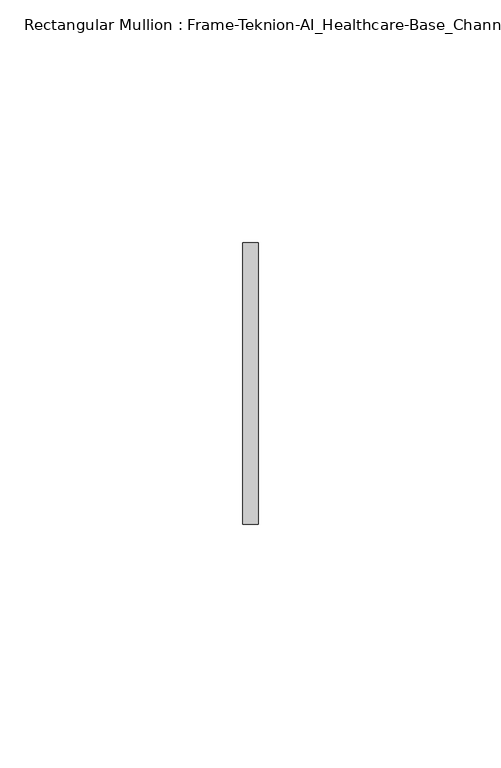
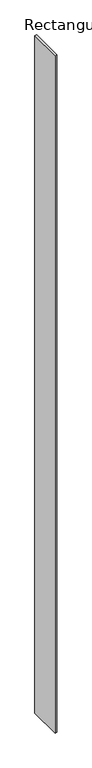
"""IFC4 building model written with IfcOpenShell, lengths in millimetres: member geometry, Rectangular Mullion : Frame-Teknion-AI_Healthcare-Base_Channel."""

import ifcopenshell
import ifcopenshell.guid

model = None  # the IFC model being written
_history = None  # IfcOwnerHistory: only IFC2X3 demands one
_inside = {}  # id of a spatial element -> (the spatial element, [elements in it])
_under = {}  # id of a project, library or spatial element -> (it, [spatial elements below it])
_declared = {}  # id of a project -> (the project, [libraries it declares])
_typed = {}  # id of a type object -> (the type object, [elements of that type])
_made_of = {}  # id of a material, layer set ... -> (it, [elements and type objects made of it])


def new_model(schema):
    """Start an empty IFC model of exactly this schema.

    Asked for "IFC4X3", IfcOpenShell would pick the latest addendum, in which some entities
    have other attributes; the version numbers below select the first issue.
    IFC2X3 requires an IfcOwnerHistory on every rooted entity: one is made here for all.
    """
    global model, _history
    if schema == "IFC4X3":
        model = ifcopenshell.file(schema_version=(4, 3, 0, 0))
    else:
        model = ifcopenshell.file(schema=schema)
    _inside.clear()
    _under.clear()
    _declared.clear()
    _typed.clear()
    _made_of.clear()
    _history = None
    if model.schema == "IFC2X3":
        org = make("IfcOrganization", Name="unknown")
        user = make(
            "IfcPersonAndOrganization",
            ThePerson=make("IfcPerson", FamilyName="unknown"),
            TheOrganization=org,
        )
        app = make(
            "IfcApplication",
            ApplicationDeveloper=org,
            Version="unknown",
            ApplicationFullName="unknown",
            ApplicationIdentifier="unknown",
        )
        _history = make(
            "IfcOwnerHistory",
            OwningUser=user,
            OwningApplication=app,
            ChangeAction="ADDED",
            CreationDate=0,
        )
    return model


def make(cls, **values):
    """One entity of the class cls with the attributes given. An attribute that is None is left unset."""
    return model.create_entity(
        cls, **{name: value for name, value in values.items() if value is not None}
    )


def rooted(cls, **values):
    """An entity with a GlobalId (a new one), such as an element, a storey or a relation."""
    return make(cls, GlobalId=ifcopenshell.guid.new(), OwnerHistory=_history, **values)


def si_unit(unit_type, name, prefix=None):
    """IfcSIUnit, for example si_unit("LENGTHUNIT", "METRE", prefix="MILLI")."""
    return make("IfcSIUnit", UnitType=unit_type, Prefix=prefix, Name=name)


def assignment(units):
    """IfcUnitAssignment: the units of a project."""
    return None if units is None else make("IfcUnitAssignment", Units=units)


def point(xyz):
    """IfcCartesianPoint."""
    return None if xyz is None else make("IfcCartesianPoint", Coordinates=xyz)


def direction(xyz):
    """IfcDirection."""
    return None if xyz is None else make("IfcDirection", DirectionRatios=xyz)


def frame(location, z_axis=None, x_axis=None):
    """IfcAxis2Placement3D, a coordinate frame: its origin and axes. An axis left out is left unset."""
    return make(
        "IfcAxis2Placement3D",
        Location=point(location),
        Axis=direction(z_axis),
        RefDirection=direction(x_axis),
    )


def origin():
    """The frame at (0, 0, 0) with its axes left unset."""
    return frame((0.0, 0.0, 0.0))


def place(relative_to, where):
    """IfcLocalPlacement: puts the frame where relative to a parent placement (None: the world)."""
    return make(
        "IfcLocalPlacement", PlacementRelTo=relative_to, RelativePlacement=where
    )


def context(
    kind, dimensions, precision=None, world=None, true_north=None, identifier=None
):
    """IfcGeometricRepresentationContext, for example the 3D "Model" context."""
    return make(
        "IfcGeometricRepresentationContext",
        ContextIdentifier=identifier,
        ContextType=kind,
        CoordinateSpaceDimension=dimensions,
        Precision=precision,
        WorldCoordinateSystem=world,
        TrueNorth=true_north,
    )


def project(units=None, contexts=None):
    """IfcProject with its units and contexts."""
    return rooted(
        "IfcProject",
        Name="project",
        RepresentationContexts=contexts,
        UnitsInContext=assignment(units),
    )


def spatial(cls, under=None, at=None, **own):
    """A site, building, storey or space (cls), placed at a placement, below another one or the project."""
    s = rooted(cls, ObjectPlacement=at, **own)
    if under is not None:
        _under.setdefault(under.id(), (under, []))[1].append(s)
    return s


def polyline(points):
    """IfcPolyline through the points."""
    return make("IfcPolyline", Points=[point(p) for p in points])


def outline(outer, holes=None, kind="AREA"):
    """IfcArbitraryClosedProfileDef: a profile drawn as a closed curve; with holes, ...WithVoids."""
    if holes is None:
        return make("IfcArbitraryClosedProfileDef", ProfileType=kind, OuterCurve=outer)
    return make(
        "IfcArbitraryProfileDefWithVoids",
        ProfileType=kind,
        OuterCurve=outer,
        InnerCurves=holes,
    )


def extrude(swept, where, along, depth):
    """IfcExtrudedAreaSolid: the profile swept, set in the frame where, extruded along a direction by depth."""
    return make(
        "IfcExtrudedAreaSolid",
        SweptArea=swept,
        Position=where,
        ExtrudedDirection=direction(along),
        Depth=depth,
    )


def shape(context_of_items, identifier, shape_type, items):
    """IfcShapeRepresentation: the items that make up one representation, for example the "Body"."""
    return make(
        "IfcShapeRepresentation",
        ContextOfItems=context_of_items,
        RepresentationIdentifier=identifier,
        RepresentationType=shape_type,
        Items=items,
    )


def source(mapping_origin, context_of_items, identifier, shape_type, items):
    """IfcRepresentationMap: a shape defined once, which mapped items show again and again."""
    return make(
        "IfcRepresentationMap",
        MappingOrigin=mapping_origin,
        MappedRepresentation=shape(context_of_items, identifier, shape_type, items),
    )


def transform(
    local_origin,
    x_axis=None,
    y_axis=None,
    z_axis=None,
    scale=None,
    scale2=None,
    scale3=None,
    uniform=True,
):
    """IfcCartesianTransformationOperator3D, or its non-uniform kind. x_axis, y_axis, z_axis: its Axis1, 2, 3."""
    if uniform:
        return make(
            "IfcCartesianTransformationOperator3D",
            Axis1=direction(x_axis),
            Axis2=direction(y_axis),
            LocalOrigin=point(local_origin),
            Scale=scale,
            Axis3=direction(z_axis),
        )
    return make(
        "IfcCartesianTransformationOperator3DnonUniform",
        Axis1=direction(x_axis),
        Axis2=direction(y_axis),
        LocalOrigin=point(local_origin),
        Scale=scale,
        Axis3=direction(z_axis),
        Scale2=scale2,
        Scale3=scale3,
    )


def mapped(mapping_source, mapping_target):
    """IfcMappedItem: shows the shape of a source again, moved by a transform."""
    return make(
        "IfcMappedItem", MappingSource=mapping_source, MappingTarget=mapping_target
    )


def made_of(thing, what):
    """Note that an element or type object is made of a material, layer set ...; save() writes the relation."""
    if what is not None:
        _made_of.setdefault(what.id(), (what, []))[1].append(thing)
    return thing


def element(
    cls,
    number,
    at=None,
    inside=None,
    cuts=None,
    type_object=None,
    material=None,
    context=None,
    identifier="Body",
    shape_type=None,
    held_by="IfcProductDefinitionShape",
    body=None,
    shapes=None,
    **own,
):
    """One element of the class cls, such as IfcWall. Its Tag is "e" and its number.

    at: its placement. inside: the storey or other place that contains it. cuts: it is an
    opening in that element (IfcRelVoidsElement). A single representation is given by context,
    identifier, shape_type and body (its items); several are given by shapes. held_by: the class
    of the entity that holds the representations. save() writes the other relations.
    """
    e = rooted(cls, Tag="e%d" % number, ObjectPlacement=at, **own)
    if body is not None:
        shapes = [shape(context, identifier, shape_type, body)]
    if shapes is not None:
        e.Representation = make(held_by, Representations=shapes)
    if inside is not None:
        _inside.setdefault(inside.id(), (inside, []))[1].append(e)
    if cuts is not None:
        rooted(
            "IfcRelVoidsElement", RelatingBuildingElement=cuts, RelatedOpeningElement=e
        )
    if type_object is not None:
        _typed.setdefault(type_object.id(), (type_object, []))[1].append(e)
    return made_of(e, material)


def aggregate(whole, parts):
    """IfcRelAggregates: a whole, such as a stair, and the parts it consists of."""
    return rooted("IfcRelAggregates", RelatingObject=whole, RelatedObjects=parts)


def save(model, path):
    """Write the relations noted so far, then the file.

    IfcRelAggregates (storeys below a building ...), IfcRelContainedInSpatialStructure (elements
    in a storey), IfcRelDefinesByType, IfcRelAssociatesMaterial and IfcRelDeclares: one each for
    every whole, place, type object, material and project.
    """
    for whole, parts in _under.values():
        aggregate(whole, parts)
    for where, things in _inside.values():
        rooted(
            "IfcRelContainedInSpatialStructure",
            RelatedElements=things,
            RelatingStructure=where,
        )
    for kind, things in _typed.values():
        rooted("IfcRelDefinesByType", RelatedObjects=things, RelatingType=kind)
    for what, things in _made_of.values():
        rooted("IfcRelAssociatesMaterial", RelatedObjects=things, RelatingMaterial=what)
    for by, libraries in _declared.values():
        rooted("IfcRelDeclares", RelatingContext=by, RelatedDefinitions=libraries)
    model.write(path)


def rectangular_mullion_frame_teknion_ai_healthcare_base_channel_b69eb93e(model_context):
    return source(origin(), model_context, "Body", "SweptSolid", [
        extrude(outline(polyline([(0.0, 29.0214844), (0.0, -29.0214844), (-3.175, -29.0214844), (-3.175, 29.0214844), (0.0, 29.0214844)])), frame((0.0, 0.0, -1193.8), z_axis=(0.0, 0.0, 1.0), x_axis=(1.0, 0.0, 0.0)), (0.0, 0.0, 1.0), 1193.8),
    ])


if __name__ == "__main__":
    model = new_model("IFC4")
    model_context = context("Model", 3, world=origin())
    ifc_project = project(units=[si_unit("LENGTHUNIT", "METRE", prefix="MILLI")], contexts=[model_context])
    site = spatial("IfcSite", under=ifc_project)
    building = spatial("IfcBuilding", under=site)
    placement = place(None, origin())
    rectangular_mullion_frame_teknion_ai_healthcare_base_channel_shape = rectangular_mullion_frame_teknion_ai_healthcare_base_channel_b69eb93e(model_context)
    element("IfcMember", 1, ObjectType="Rectangular Mullion : Frame-Teknion-AI_Healthcare-Base_Channel", at=placement, inside=building, context=model_context, shape_type="MappedRepresentation", body=[
        mapped(rectangular_mullion_frame_teknion_ai_healthcare_base_channel_shape, transform((0.0, 0.0, 0.0), x_axis=(1.0, 0.0, 0.0), y_axis=(0.0, 1.0, 0.0), z_axis=(0.0, 0.0, 1.0))),
    ])
    save(model, "model.ifc")
